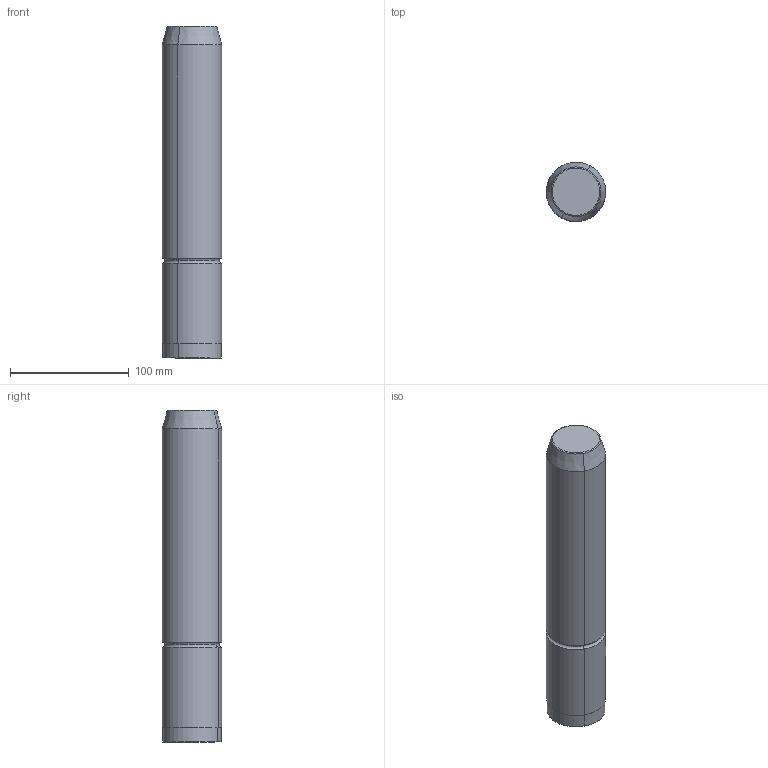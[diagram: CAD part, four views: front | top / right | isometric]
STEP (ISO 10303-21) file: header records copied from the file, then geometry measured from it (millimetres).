
FILE_DESCRIPTION(('CATIA V5 STEP Exchange'),'2;1');
FILE_NAME('C:\Users\Utente\Desktop\IO LAVORO\3D X SITO CF\X SITO\M104\M104-50x280.stp','2020-12-26T21:24:12+00:00',('none'),('none'),'CATIA Version 5 Release 20 GA (IN-10)','CATIA V5 STEP AP203','none');
FILE_SCHEMA(('CONFIG_CONTROL_DESIGN'));
Length unit declared in the file: millimetre
Products named in the file (1): M104-50x280
Bounding box: 49.99 x 49.99 x 280 mm (x, y, z)
Volume: 542702.3 mm3; surface area: 47413 mm2
Topology: 1 solids, 1 shells, 17 faces, 32 edges, 18 vertices
Faces by surface type: cylinder 6, torus 6, plane 3, cone 2
Entity records: 438 total; most frequent: CARTESIAN_POINT 66, ORIENTED_EDGE 64, DIRECTION 62, AXIS2_PLACEMENT_3D 40, EDGE_CURVE 32, CIRCLE 24, EDGE_LOOP 18, VERTEX_POINT 18
